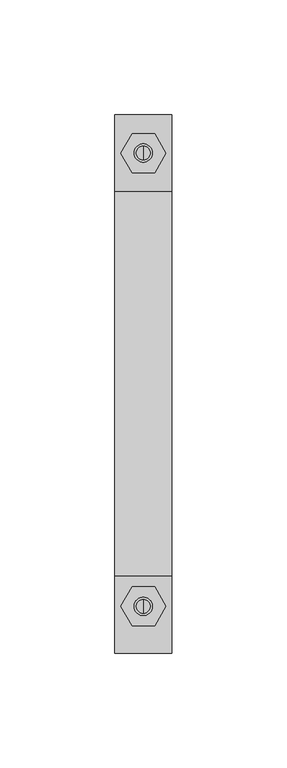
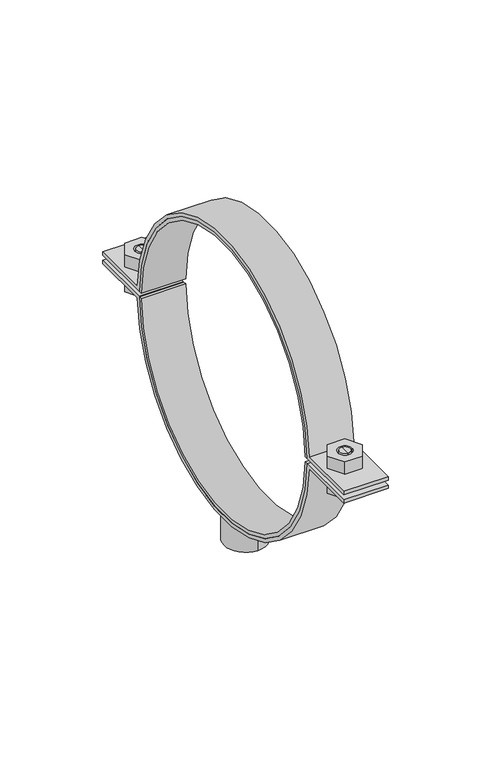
"""IFC4 building model written with IfcOpenShell, lengths in millimetres: valve geometry, Superfix DG2 Clamp Extra : Superfix DG2 Clamp Extra."""

from ifc_helpers import new_model, si_unit, point, frame, frame_2d, origin, origin_2d, place, context, project, spatial, polyline, circle_curve, trimmed, segment, composite_curve, outline, extrude, source, transform, mapped, element, save
from ifc_brep_helpers import plane_surface, cylinder_surface, advanced_brep


def valve_6b410df3(model_context):
    return source(origin(), model_context, "Body", "SolidModel", [
        advanced_brep(
        [(0.0, 103.75, 333.9), (0.0, 97.75, 333.9), (0.0, 97.75, 348.5), (0.0, 103.75, 348.5), (0.0, 100.75, 333.9)],
        [
            (0, 1, circle_curve(frame((0.0, 100.75, 333.9), z_axis=(0.0, 0.0, 1.0), x_axis=(0.0, 1.0, 0.0)), 3.0)),
            (1, 2),
            (2, 3, circle_curve(frame((0.0, 100.75, 348.5), z_axis=(0.0, 0.0, -1.0), x_axis=(0.0, 1.0, 0.0)), 3.0)),
            (3, 0),
            (1, 0, circle_curve(frame((0.0, 100.75, 333.9), z_axis=(0.0, 0.0, 1.0), x_axis=(0.0, 1.0, 0.0)), 3.0)),
            (3, 2, circle_curve(frame((0.0, 100.75, 348.5), z_axis=(0.0, 0.0, -1.0), x_axis=(0.0, 1.0, 0.0)), 3.0)),
            (0, 4),
            (4, 1),
        ],
        [
            cylinder_surface(frame((0.0, 100.75, 348.2806094), z_axis=(0.0, 0.0, 1.0), x_axis=(0.0, 1.0, 0.0)), 3.0),
            plane_surface(frame((0.0, 100.75, 333.9), z_axis=(0.0, 0.0, -1.0), x_axis=(0.0, 1.0, 0.0))),
            plane_surface(frame((13.75, -117.5, 348.5), z_axis=(0.0, 0.0, 1.0), x_axis=(-1.0, 0.0, 0.0))),
        ],
        [
            (0, [[1, 2, 3, 4]]),
            (0, [[5, -4, 6, -2]]),
            (1, [[-1, 7, 8]]),
            (1, [[-5, -8, -7]]),
            (2, [[-3, -6]]),
        ],
    ),
        advanced_brep(
        [(0.0, 97.75, 361.1), (0.0, 103.75, 361.1), (0.0, 103.75, 351.5), (0.0, 97.75, 351.5), (0.0, 100.75, 361.1)],
        [
            (0, 1, circle_curve(frame((0.0, 100.75, 361.1), z_axis=(0.0, 0.0, -1.0), x_axis=(0.0, 1.0, 0.0)), 3.0)),
            (1, 2),
            (2, 3, circle_curve(frame((0.0, 100.75, 351.5), z_axis=(0.0, 0.0, 1.0), x_axis=(0.0, 1.0, 0.0)), 3.0)),
            (3, 0),
            (1, 0, circle_curve(frame((0.0, 100.75, 361.1), z_axis=(0.0, 0.0, -1.0), x_axis=(0.0, 1.0, 0.0)), 3.0)),
            (3, 2, circle_curve(frame((0.0, 100.75, 351.5), z_axis=(0.0, 0.0, 1.0), x_axis=(0.0, 1.0, 0.0)), 3.0)),
            (0, 4),
            (4, 1),
        ],
        [
            cylinder_surface(frame((0.0, 100.75, 348.2806094), z_axis=(0.0, 0.0, 1.0), x_axis=(0.0, 1.0, 0.0)), 3.0),
            plane_surface(frame((0.0, 100.75, 361.1), z_axis=(0.0, 0.0, 1.0), x_axis=(0.0, 1.0, 0.0))),
            plane_surface(frame((13.75, 117.5, 351.5), z_axis=(0.0, 0.0, -1.0), x_axis=(-1.0, 0.0, 0.0))),
        ],
        [
            (0, [[1, 2, 3, 4]]),
            (0, [[5, -4, 6, -2]]),
            (1, [[-1, 7, 8]]),
            (1, [[-5, -8, -7]]),
            (2, [[-3, -6]]),
        ],
    ),
        advanced_brep(
        [(0.0, -100.0, 361.1), (0.0, -94.0, 361.1), (0.0, -94.0, 351.5), (0.0, -100.0, 351.5), (0.0, -97.0, 361.1)],
        [
            (0, 1, circle_curve(frame((0.0, -97.0, 361.1), z_axis=(0.0, 0.0, -1.0), x_axis=(0.0, -1.0, 0.0)), 3.0)),
            (1, 2),
            (2, 3, circle_curve(frame((0.0, -97.0, 351.5), z_axis=(0.0, 0.0, 1.0), x_axis=(0.0, -1.0, 0.0)), 3.0)),
            (3, 0),
            (1, 0, circle_curve(frame((0.0, -97.0, 361.1), z_axis=(0.0, 0.0, -1.0), x_axis=(0.0, -1.0, 0.0)), 3.0)),
            (3, 2, circle_curve(frame((0.0, -97.0, 351.5), z_axis=(0.0, 0.0, 1.0), x_axis=(0.0, -1.0, 0.0)), 3.0)),
            (0, 4),
            (4, 1),
        ],
        [
            cylinder_surface(frame((0.0, -97.0, 348.2806094), z_axis=(0.0, 0.0, -1.0), x_axis=(0.0, -1.0, 0.0)), 3.0),
            plane_surface(frame((0.0, -97.0, 361.1), z_axis=(0.0, 0.0, 1.0), x_axis=(0.0, -1.0, 0.0))),
            plane_surface(frame((13.75, 117.5, 351.5), z_axis=(0.0, 0.0, -1.0), x_axis=(-1.0, 0.0, 0.0))),
        ],
        [
            (0, [[1, 2, 3, 4]]),
            (0, [[5, -4, 6, -2]]),
            (1, [[-1, 7, 8]]),
            (1, [[-5, -8, -7]]),
            (2, [[-3, -6]]),
        ],
    ),
        advanced_brep(
        [(0.0, -94.0, 333.9), (0.0, -100.0, 333.9), (0.0, -100.0, 348.5), (0.0, -94.0, 348.5), (0.0, -97.0, 333.9)],
        [
            (0, 1, circle_curve(frame((0.0, -97.0, 333.9), z_axis=(0.0, 0.0, 1.0), x_axis=(0.0, -1.0, 0.0)), 3.0)),
            (1, 2),
            (2, 3, circle_curve(frame((0.0, -97.0, 348.5), z_axis=(0.0, 0.0, -1.0), x_axis=(0.0, -1.0, 0.0)), 3.0)),
            (3, 0),
            (1, 0, circle_curve(frame((0.0, -97.0, 333.9), z_axis=(0.0, 0.0, 1.0), x_axis=(0.0, -1.0, 0.0)), 3.0)),
            (3, 2, circle_curve(frame((0.0, -97.0, 348.5), z_axis=(0.0, 0.0, -1.0), x_axis=(0.0, -1.0, 0.0)), 3.0)),
            (0, 4),
            (4, 1),
        ],
        [
            cylinder_surface(frame((0.0, -97.0, 348.2806094), z_axis=(0.0, 0.0, -1.0), x_axis=(0.0, -1.0, 0.0)), 3.0),
            plane_surface(frame((0.0, -97.0, 333.9), z_axis=(0.0, 0.0, -1.0), x_axis=(0.0, -1.0, 0.0))),
            plane_surface(frame((13.75, -117.5, 348.5), z_axis=(0.0, 0.0, 1.0), x_axis=(-1.0, 0.0, 0.0))),
        ],
        [
            (0, [[1, 2, 3, 4]]),
            (0, [[5, -4, 6, -2]]),
            (1, [[-1, 7, 8]]),
            (1, [[-5, -8, -7]]),
            (2, [[-3, -6]]),
        ],
    ),
        extrude(outline(composite_curve([segment(trimmed(circle_curve(frame_2d((0.0, 350.0)), 82.0), [point((-81.9862793, 348.5))], [point((81.9862793, 348.5))], True, "CARTESIAN"), True, "CONTINUOUS"), segment(polyline([(81.9862793, 348.5), (117.5, 348.5), (117.5, 346.5), (83.9270517, 346.5)]), True, "CONTINUOUS"), segment(trimmed(circle_curve(frame_2d((0.0, 350.0)), 84.0), [point((83.9270517, 346.5))], [point((-83.9270517, 346.5))], False, "CARTESIAN"), True, "CONTINUOUS"), segment(polyline([(-83.9270517, 346.5), (-117.5, 346.5), (-117.5, 348.5), (-81.9862793, 348.5)]), True, "CONTINUOUS")], self_intersect=False)), frame((-12.5, 0.0, 0.0), z_axis=(1.0, 0.0, 0.0), x_axis=(0.0, 1.0, 0.0)), (0.0, 0.0, 1.0), 25.0),
        extrude(outline(composite_curve([segment(trimmed(circle_curve(frame_2d((0.0, 350.0)), 82.0), [point((81.9862793, 351.5))], [point((-81.9862793, 351.5))], True, "CARTESIAN"), True, "CONTINUOUS"), segment(polyline([(-81.9862793, 351.5), (-117.5, 351.5), (-117.5, 353.5), (-83.9270517, 353.5)]), True, "CONTINUOUS"), segment(trimmed(circle_curve(frame_2d((0.0, 350.0)), 84.0), [point((-83.9270517, 353.5))], [point((83.9270517, 353.5))], False, "CARTESIAN"), True, "CONTINUOUS"), segment(polyline([(83.9270517, 353.5), (117.5, 353.5), (117.5, 351.5), (81.9862793, 351.5)]), True, "CONTINUOUS")], self_intersect=False)), frame((-12.5, 0.0, 0.0), z_axis=(1.0, 0.0, 0.0), x_axis=(0.0, 1.0, 0.0)), (0.0, 0.0, 1.0), 25.0),
        extrude(outline(polyline([(9.8149546, -97.0), (4.9074773, -105.5), (-4.9074773, -105.5), (-9.8149546, -97.0), (-4.9074773, -88.5), (4.9074773, -88.5), (9.8149546, -97.0)]), holes=[composite_curve([segment(trimmed(circle_curve(frame_2d((0.0, -97.0)), 4.0), [point((4.0, -97.0))], [point((-4.0, -97.0))], True, "CARTESIAN"), True, "CONTINUOUS"), segment(trimmed(circle_curve(frame_2d((0.0, -97.0)), 4.0), [point((-4.0, -97.0))], [point((4.0, -97.0))], True, "CARTESIAN"), True, "CONTINUOUS")], self_intersect=False)]), frame((0.0, 0.0, 353.5), z_axis=(0.0, 0.0, 1.0), x_axis=(1.0, 0.0, 0.0)), (0.0, 0.0, 1.0), 7.6),
        extrude(outline(polyline([(9.8149546, 100.75), (4.9074773, 92.25), (-4.9074773, 92.25), (-9.8149546, 100.75), (-4.9074773, 109.25), (4.9074773, 109.25), (9.8149546, 100.75)]), holes=[composite_curve([segment(trimmed(circle_curve(frame_2d((0.0, 100.75)), 4.0), [point((4.0, 100.75))], [point((-4.0, 100.75))], True, "CARTESIAN"), True, "CONTINUOUS"), segment(trimmed(circle_curve(frame_2d((0.0, 100.75)), 4.0), [point((-4.0, 100.75))], [point((4.0, 100.75))], True, "CARTESIAN"), True, "CONTINUOUS")], self_intersect=False)]), frame((0.0, 0.0, 353.5), z_axis=(0.0, 0.0, 1.0), x_axis=(1.0, 0.0, 0.0)), (0.0, 0.0, 1.0), 7.6),
        extrude(outline(polyline([(9.8149546, -97.0), (4.9074773, -105.5), (-4.9074773, -105.5), (-9.8149546, -97.0), (-4.9074773, -88.5), (4.9074773, -88.5), (9.8149546, -97.0)]), holes=[composite_curve([segment(trimmed(circle_curve(frame_2d((0.0, -97.0)), 4.0), [point((4.0, -97.0))], [point((-4.0, -97.0))], True, "CARTESIAN"), True, "CONTINUOUS"), segment(trimmed(circle_curve(frame_2d((0.0, -97.0)), 4.0), [point((-4.0, -97.0))], [point((4.0, -97.0))], True, "CARTESIAN"), True, "CONTINUOUS")], self_intersect=False)]), frame((0.0, 0.0, 338.9), z_axis=(0.0, 0.0, 1.0), x_axis=(1.0, 0.0, 0.0)), (0.0, 0.0, 1.0), 7.6),
        extrude(outline(polyline([(9.8149546, 100.75), (4.9074773, 92.25), (-4.9074773, 92.25), (-9.8149546, 100.75), (-4.9074773, 109.25), (4.9074773, 109.25), (9.8149546, 100.75)]), holes=[composite_curve([segment(trimmed(circle_curve(frame_2d((0.0, 100.75)), 4.0), [point((4.0, 100.75))], [point((-4.0, 100.75))], True, "CARTESIAN"), True, "CONTINUOUS"), segment(trimmed(circle_curve(frame_2d((0.0, 100.75)), 4.0), [point((-4.0, 100.75))], [point((4.0, 100.75))], True, "CARTESIAN"), True, "CONTINUOUS")], self_intersect=False)]), frame((0.0, 0.0, 338.9), z_axis=(0.0, 0.0, 1.0), x_axis=(1.0, 0.0, 0.0)), (0.0, 0.0, 1.0), 7.6),
        extrude(outline(composite_curve([segment(trimmed(circle_curve(origin_2d(), 12.0), [point((0.0, 12.0))], [point((0.0, -12.0))], False, "CARTESIAN"), True, "CONTINUOUS"), segment(trimmed(circle_curve(origin_2d(), 12.0), [point((0.0, -12.0))], [point((0.0, 12.0))], False, "CARTESIAN"), True, "CONTINUOUS")], self_intersect=False), holes=[composite_curve([segment(trimmed(circle_curve(origin_2d(), 8.0), [point((0.0, 8.0))], [point((0.0, -8.0))], True, "CARTESIAN"), True, "CONTINUOUS"), segment(trimmed(circle_curve(origin_2d(), 8.0), [point((0.0, -8.0))], [point((0.0, 8.0))], True, "CARTESIAN"), True, "CONTINUOUS")], self_intersect=False)]), frame((0.0, 0.0, 250.0), z_axis=(0.0, 0.0, 1.0), x_axis=(1.0, 0.0, 0.0)), (0.0, 0.0, 1.0), 18.0),
        extrude(outline(composite_curve([segment(trimmed(circle_curve(frame_2d((0.0, 350.0)), 80.0), [point((79.9859363, 351.5))], [point((-79.9859363, 351.5))], True, "CARTESIAN"), True, "CONTINUOUS"), segment(polyline([(-79.9859363, 351.5), (-81.9862793, 351.5)]), True, "CONTINUOUS"), segment(trimmed(circle_curve(frame_2d((0.0, 350.0)), 82.0), [point((-81.9862793, 351.5))], [point((81.9862793, 351.5))], False, "CARTESIAN"), True, "CONTINUOUS"), segment(polyline([(81.9862793, 351.5), (79.9859363, 351.5)]), True, "CONTINUOUS")], self_intersect=False)), frame((-12.5, 0.0, 0.0), z_axis=(1.0, 0.0, 0.0), x_axis=(0.0, 1.0, 0.0)), (0.0, 0.0, 1.0), 25.0),
        extrude(outline(composite_curve([segment(polyline([(79.9859363, 348.5), (81.9862793, 348.5)]), True, "CONTINUOUS"), segment(trimmed(circle_curve(frame_2d((0.0, 350.0)), 82.0), [point((81.9862793, 348.5))], [point((-81.9862793, 348.5))], False, "CARTESIAN"), True, "CONTINUOUS"), segment(polyline([(-81.9862793, 348.5), (-79.9859363, 348.5)]), True, "CONTINUOUS"), segment(trimmed(circle_curve(frame_2d((0.0, 350.0)), 80.0), [point((-79.9859363, 348.5))], [point((79.9859363, 348.5))], True, "CARTESIAN"), True, "CONTINUOUS")], self_intersect=False)), frame((-12.5, 0.0, 0.0), z_axis=(1.0, 0.0, 0.0), x_axis=(0.0, 1.0, 0.0)), (0.0, 0.0, 1.0), 25.0),
    ])


if __name__ == "__main__":
    model = new_model("IFC4")
    model_context = context("Model", 3, world=origin())
    ifc_project = project(units=[si_unit("LENGTHUNIT", "METRE", prefix="MILLI")], contexts=[model_context])
    site = spatial("IfcSite", under=ifc_project)
    building = spatial("IfcBuilding", under=site)
    placement = place(None, origin())
    valve_shape = valve_6b410df3(model_context)
    element("IfcValve", 1, ObjectType="Superfix DG2 Clamp Extra : Superfix DG2 Clamp Extra", at=placement, inside=building, context=model_context, shape_type="MappedRepresentation", body=[
        mapped(valve_shape, transform((0.0, 0.0, 0.0), x_axis=(1.0, 0.0, 0.0), y_axis=(0.0, 1.0, 0.0), z_axis=(0.0, 0.0, 1.0))),
    ])
    save(model, "model.ifc")
